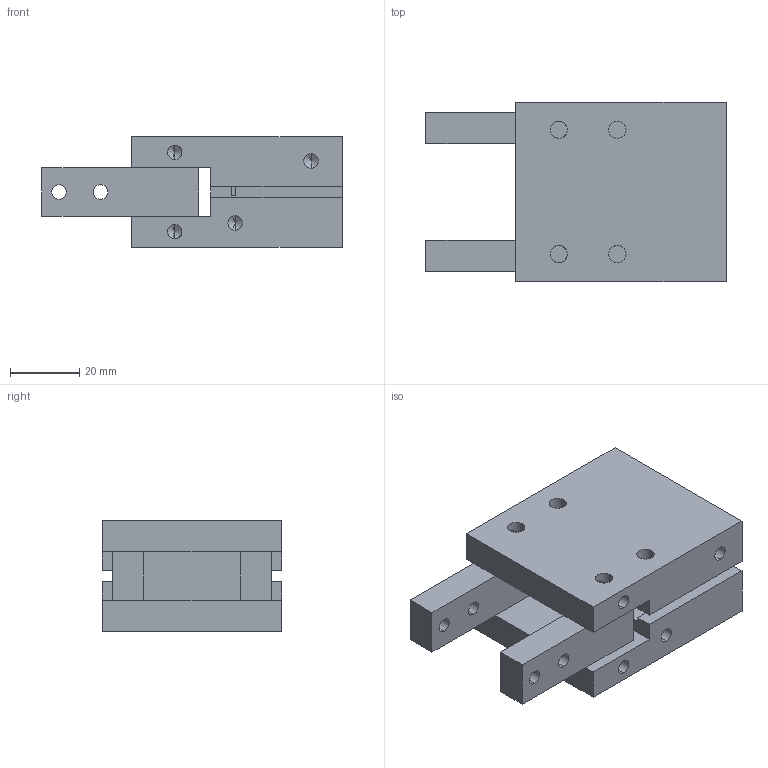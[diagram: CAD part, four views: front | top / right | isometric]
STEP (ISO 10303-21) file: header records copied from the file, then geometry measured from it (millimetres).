
FILE_DESCRIPTION (( 'STEP AP203' ), '1' );
FILE_NAME ('FCHY-25.STEP', '2016-03-29T06:22:45', ( 'Sam Lin' ), ( '' ), 'SwSTEP 2.0', 'SolidWorks 2013', '' );
FILE_SCHEMA (( 'CONFIG_CONTROL_DESIGN' ));
Length unit declared in the file: millimetre
Products named in the file (1): FCHY-25
Bounding box: 87 x 52 x 32 mm (x, y, z)
Volume: 88086.4 mm3; surface area: 23265.2 mm2
Topology: 1 solids, 1 shells, 115 faces, 314 edges, 190 vertices
Faces by surface type: cylinder 50, plane 43, cone 22
Entity records: 4065 total; most frequent: CARTESIAN_POINT 1104, DIRECTION 596, ORIENTED_EDGE 588, EDGE_CURVE 294, AXIS2_PLACEMENT_3D 204, VERTEX_POINT 190, VECTOR 188, LINE 188
